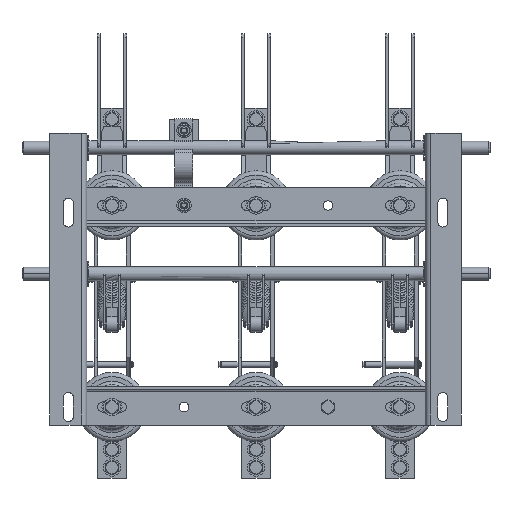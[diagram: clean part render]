
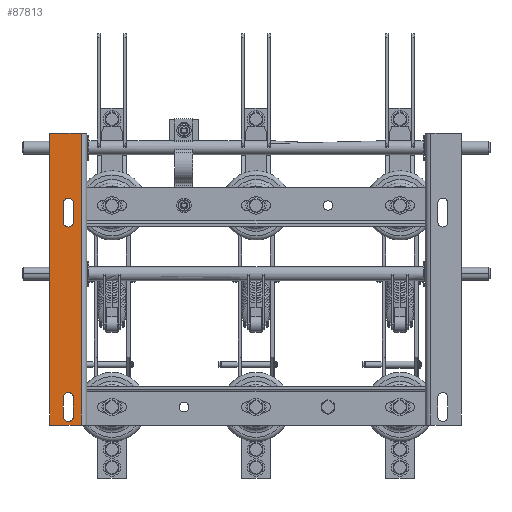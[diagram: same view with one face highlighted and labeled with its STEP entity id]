
A CAD part, front view. The second image highlights one B-rep face of the part: STEP entity #87813.
In plain terms, the highlighted planar face has unit normal (0, -1, 0).
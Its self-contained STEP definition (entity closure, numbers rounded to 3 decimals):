
#1289 = CIRCLE ( 'NONE', #49486, 7. ) ;
#1521 = VERTEX_POINT ( 'NONE', #62099 ) ;
#3124 = VERTEX_POINT ( 'NONE', #73133 ) ;
#6269 = DIRECTION ( 'NONE',  ( 0., 0., 1. ) ) ;
#9332 = EDGE_CURVE ( 'NONE', #43437, #3124, #82012, .T. ) ;
#9457 = LINE ( 'NONE', #92215, #87333 ) ;
#9476 = ORIENTED_EDGE ( 'NONE', *, *, #25684, .T. ) ;
#10718 = CARTESIAN_POINT ( 'NONE',  ( -267.099, -0.004, -147.999 ) ) ;
#11445 = VECTOR ( 'NONE', #6269, 1000. ) ;
#13128 = VERTEX_POINT ( 'NONE', #56884 ) ;
#14660 = CARTESIAN_POINT ( 'NONE',  ( -242.395, -0.004, -159.999 ) ) ;
#15880 = CIRCLE ( 'NONE', #97179, 7. ) ;
#16831 = EDGE_CURVE ( 'NONE', #54183, #20936, #33864, .T. ) ;
#18938 = ORIENTED_EDGE ( 'NONE', *, *, #27673, .F. ) ;
#20181 = ORIENTED_EDGE ( 'NONE', *, *, #43824, .F. ) ;
#20936 = VERTEX_POINT ( 'NONE', #35230 ) ;
#21189 = EDGE_CURVE ( 'NONE', #79872, #32364, #84153, .T. ) ;
#21446 = CARTESIAN_POINT ( 'NONE',  ( -267.099, -0.004, -147.999 ) ) ;
#23198 = EDGE_CURVE ( 'NONE', #20936, #43437, #1289, .T. ) ;
#23243 = LINE ( 'NONE', #85139, #43257 ) ;
#24325 = DIRECTION ( 'NONE',  ( 0., 1., 0. ) ) ;
#24671 = DIRECTION ( 'NONE',  ( 0., 1., 0. ) ) ;
#24832 = ORIENTED_EDGE ( 'NONE', *, *, #43230, .F. ) ;
#25684 = EDGE_CURVE ( 'NONE', #75916, #13128, #90607, .T. ) ;
#26153 = ORIENTED_EDGE ( 'NONE', *, *, #59807, .T. ) ;
#26953 = EDGE_LOOP ( 'NONE', ( #27462, #78295, #52303, #9476 ) ) ;
#27462 = ORIENTED_EDGE ( 'NONE', *, *, #71146, .T. ) ;
#27673 = EDGE_CURVE ( 'NONE', #44312, #1521, #23243, .T. ) ;
#28272 = CARTESIAN_POINT ( 'NONE',  ( -242.395, -0.004, -159.999 ) ) ;
#31591 = DIRECTION ( 'NONE',  ( 1., 0., 0. ) ) ;
#31950 = LINE ( 'NONE', #39167, #47289 ) ;
#32364 = VERTEX_POINT ( 'NONE', #42645 ) ;
#33864 = LINE ( 'NONE', #21446, #11445 ) ;
#35230 = CARTESIAN_POINT ( 'NONE',  ( -267.099, -0.004, -121.999 ) ) ;
#35564 = AXIS2_PLACEMENT_3D ( 'NONE', #86777, #94400, #49129 ) ;
#38276 = VECTOR ( 'NONE', #50974, 1000. ) ;
#39167 = CARTESIAN_POINT ( 'NONE',  ( -285.599, -0.004, 245.001 ) ) ;
#39174 = FACE_BOUND ( 'NONE', #26953, .T. ) ;
#40630 = DIRECTION ( 'NONE',  ( 0., 1., 0. ) ) ;
#42645 = CARTESIAN_POINT ( 'NONE',  ( -267.099, -0.004, 148.001 ) ) ;
#43230 = EDGE_CURVE ( 'NONE', #1521, #54208, #31950, .T. ) ;
#43232 = CARTESIAN_POINT ( 'NONE',  ( -260.099, -0.004, -147.999 ) ) ;
#43257 = VECTOR ( 'NONE', #62297, 1000. ) ;
#43437 = VERTEX_POINT ( 'NONE', #64455 ) ;
#43824 = EDGE_CURVE ( 'NONE', #68705, #44312, #9457, .T. ) ;
#44312 = VERTEX_POINT ( 'NONE', #70226 ) ;
#47289 = VECTOR ( 'NONE', #31591, 1000. ) ;
#47390 = CARTESIAN_POINT ( 'NONE',  ( -267.099, -0.004, 122.001 ) ) ;
#47890 = DIRECTION ( 'NONE',  ( 0., 0., -1. ) ) ;
#49129 = DIRECTION ( 'NONE',  ( 1., 0., 0. ) ) ;
#49486 = AXIS2_PLACEMENT_3D ( 'NONE', #85877, #40630, #93502 ) ;
#50290 = CARTESIAN_POINT ( 'NONE',  ( -267.099, -0.004, 122.001 ) ) ;
#50822 = DIRECTION ( 'NONE',  ( 1., 0., 0. ) ) ;
#50974 = DIRECTION ( 'NONE',  ( 0., 0., 1. ) ) ;
#51775 = CIRCLE ( 'NONE', #68802, 7. ) ;
#52303 = ORIENTED_EDGE ( 'NONE', *, *, #69818, .T. ) ;
#53313 = ORIENTED_EDGE ( 'NONE', *, *, #23198, .T. ) ;
#53927 = EDGE_CURVE ( 'NONE', #68705, #54208, #60642, .T. ) ;
#54183 = VERTEX_POINT ( 'NONE', #10718 ) ;
#54208 = VERTEX_POINT ( 'NONE', #71037 ) ;
#56855 = FACE_BOUND ( 'NONE', #66666, .T. ) ;
#56884 = CARTESIAN_POINT ( 'NONE',  ( -253.099, -0.004, 122.001 ) ) ;
#57943 = ORIENTED_EDGE ( 'NONE', *, *, #16831, .T. ) ;
#59807 = EDGE_CURVE ( 'NONE', #3124, #54183, #51775, .T. ) ;
#60642 = LINE ( 'NONE', #28272, #38276 ) ;
#61844 = VECTOR ( 'NONE', #47890, 1000. ) ;
#62099 = CARTESIAN_POINT ( 'NONE',  ( -285.599, -0.004, 245.001 ) ) ;
#62297 = DIRECTION ( 'NONE',  ( 0., 0., 1. ) ) ;
#62710 = DIRECTION ( 'NONE',  ( -1., 0., 0. ) ) ;
#64455 = CARTESIAN_POINT ( 'NONE',  ( -253.099, -0.004, -121.999 ) ) ;
#65706 = VECTOR ( 'NONE', #88512, 1000. ) ;
#66005 = CARTESIAN_POINT ( 'NONE',  ( -253.099, -0.004, 148.001 ) ) ;
#66666 = EDGE_LOOP ( 'NONE', ( #26153, #57943, #53313, #81700 ) ) ;
#68705 = VERTEX_POINT ( 'NONE', #14660 ) ;
#68802 = AXIS2_PLACEMENT_3D ( 'NONE', #43232, #96072, #50822 ) ;
#69194 = AXIS2_PLACEMENT_3D ( 'NONE', #69444, #24325, #77095 ) ;
#69444 = CARTESIAN_POINT ( 'NONE',  ( -260.099, -0.004, 148.001 ) ) ;
#69788 = CARTESIAN_POINT ( 'NONE',  ( -260.099, -0.004, 122.001 ) ) ;
#69818 = EDGE_CURVE ( 'NONE', #32364, #75916, #90283, .T. ) ;
#70226 = CARTESIAN_POINT ( 'NONE',  ( -285.599, -0.004, -159.999 ) ) ;
#71037 = CARTESIAN_POINT ( 'NONE',  ( -242.395, -0.004, 245.001 ) ) ;
#71146 = EDGE_CURVE ( 'NONE', #13128, #79872, #15880, .T. ) ;
#71589 = PLANE ( 'NONE',  #35564 ) ;
#73133 = CARTESIAN_POINT ( 'NONE',  ( -253.099, -0.004, -147.999 ) ) ;
#75916 = VERTEX_POINT ( 'NONE', #80983 ) ;
#77095 = DIRECTION ( 'NONE',  ( -1., 0., 0. ) ) ;
#77434 = DIRECTION ( 'NONE',  ( 1., 0., 0. ) ) ;
#77944 = CARTESIAN_POINT ( 'NONE',  ( -253.099, -0.004, -121.999 ) ) ;
#78295 = ORIENTED_EDGE ( 'NONE', *, *, #21189, .T. ) ;
#79652 = EDGE_LOOP ( 'NONE', ( #81422, #24832, #18938, #20181 ) ) ;
#79872 = VERTEX_POINT ( 'NONE', #50290 ) ;
#80983 = CARTESIAN_POINT ( 'NONE',  ( -253.099, -0.004, 148.001 ) ) ;
#81422 = ORIENTED_EDGE ( 'NONE', *, *, #53927, .T. ) ;
#81700 = ORIENTED_EDGE ( 'NONE', *, *, #9332, .T. ) ;
#82012 = LINE ( 'NONE', #77944, #61844 ) ;
#84153 = LINE ( 'NONE', #47390, #88870 ) ;
#85139 = CARTESIAN_POINT ( 'NONE',  ( -285.599, -0.004, -159.999 ) ) ;
#85327 = DIRECTION ( 'NONE',  ( 0., 0., 1. ) ) ;
#85877 = CARTESIAN_POINT ( 'NONE',  ( -260.099, -0.004, -121.999 ) ) ;
#86777 = CARTESIAN_POINT ( 'NONE',  ( -285.599, -0.004, 47.501 ) ) ;
#87333 = VECTOR ( 'NONE', #62710, 1000. ) ;
#87813 = ADVANCED_FACE ( 'NONE', ( #97070, #56855, #39174 ), #71589, .F. ) ;
#88512 = DIRECTION ( 'NONE',  ( 0., 0., -1. ) ) ;
#88870 = VECTOR ( 'NONE', #85327, 1000. ) ;
#90283 = CIRCLE ( 'NONE', #69194, 7. ) ;
#90607 = LINE ( 'NONE', #66005, #65706 ) ;
#92215 = CARTESIAN_POINT ( 'NONE',  ( -242.395, -0.004, -159.999 ) ) ;
#93502 = DIRECTION ( 'NONE',  ( -1., 0., 0. ) ) ;
#94400 = DIRECTION ( 'NONE',  ( 0., 1., 0. ) ) ;
#96072 = DIRECTION ( 'NONE',  ( 0., 1., 0. ) ) ;
#97070 = FACE_OUTER_BOUND ( 'NONE', #79652, .T. ) ;
#97179 = AXIS2_PLACEMENT_3D ( 'NONE', #69788, #24671, #77434 ) ;
